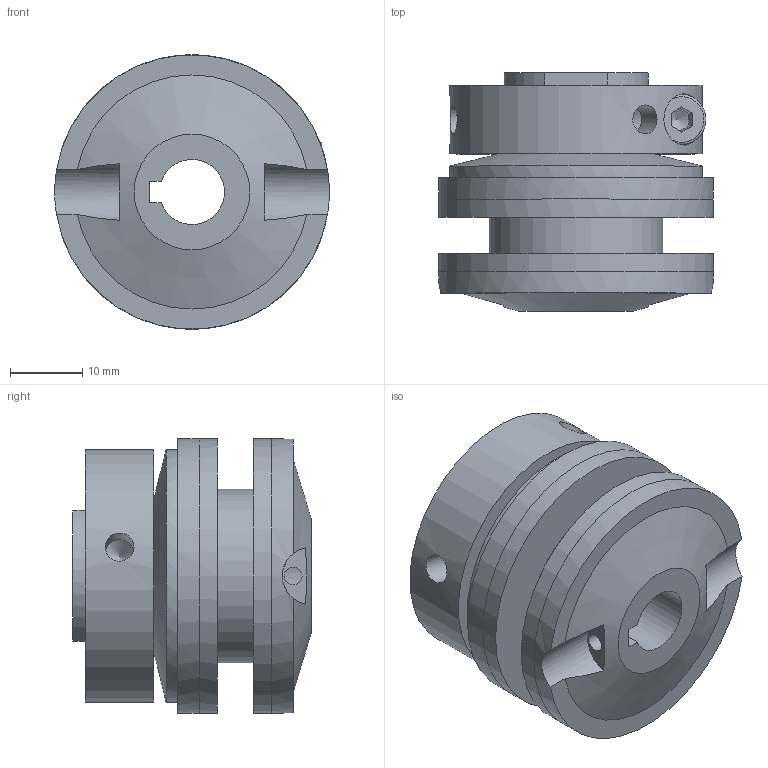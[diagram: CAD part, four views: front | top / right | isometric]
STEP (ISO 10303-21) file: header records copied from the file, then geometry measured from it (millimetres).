
FILE_DESCRIPTION( ( 'Unknown' ), '1' );
FILE_NAME( 'R:/utp/progettazione/3 D/DF/COMPLESSIVI/DF/00-38 DF GR.stp', 'Unknown', ( 'Unknown' ), ( 'Unknown' ), 'PSStep 10.1', 'Unknown', ' ' );
FILE_SCHEMA( ( 'AUTOMOTIVE_DESIGN { 1 0 10303 214 1 1 1 1 }' ) );
Length unit declared in the file: millimetre
Products named in the file (1): 1
Bounding box: 38 x 33 x 38 mm (x, y, z)
Volume: 24187.7 mm3; surface area: 12528.7 mm2
Topology: 1 solids, 1 shells, 83 faces, 247 edges, 167 vertices
Faces by surface type: plane 40, cylinder 32, cone 9, torus 2
Full cylindrical faces by diameter (mm): 2.459 x1, 3.242 x1, 4 x6, 4.5 x1, 7 x1, 7.1 x1, 21.2 x1, 24 x2, 35 x1, 37.99 x2, 38 x2
Entity records: 3898 total; most frequent: CARTESIAN_POINT 896, DIRECTION 405, ORIENTED_EDGE 374, EDGE_CURVE 187, PRESENTATION_STYLE_ASSIGNMENT 167, COLOUR_RGB 167, AXIS2_PLACEMENT_3D 158, VERTEX_POINT 143
